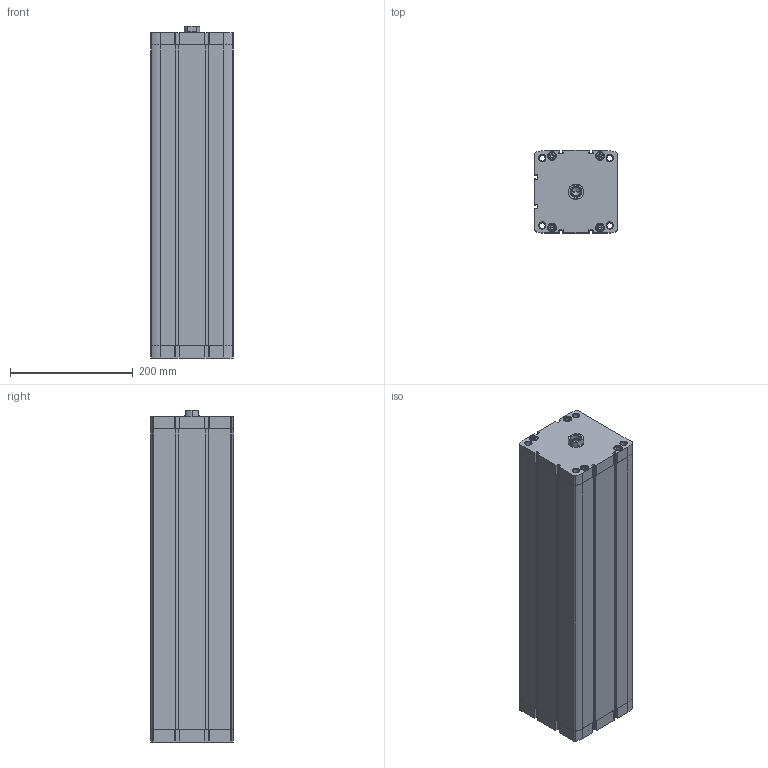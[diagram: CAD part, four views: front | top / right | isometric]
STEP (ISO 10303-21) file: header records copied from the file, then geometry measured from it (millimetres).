
FILE_DESCRIPTION (( 'STEP AP203' ), '1' );
FILE_NAME ('CCN125-450F.STEP', '2020-06-05T19:31:58', ( '' ), ( '' ), 'SwSTEP 2.0', 'SolidWorks 2019', '' );
FILE_SCHEMA (( 'CONFIG_CONTROL_DESIGN' ));
Length unit declared in the file: millimetre
Products named in the file (1): CCN125-450F
Bounding box: 134.6 x 134.6 x 542 mm (x, y, z)
Volume: 3900409.5 mm3; surface area: 719257.3 mm2
Topology: 2 solids, 2 shells, 535 faces, 1370 edges, 861 vertices
Faces by surface type: plane 267, cylinder 194, cone 74
Entity records: 17215 total; most frequent: CARTESIAN_POINT 3931, DIRECTION 2876, ORIENTED_EDGE 2704, EDGE_CURVE 1352, AXIS2_PLACEMENT_3D 1054, VERTEX_POINT 861, LINE 768, VECTOR 768
